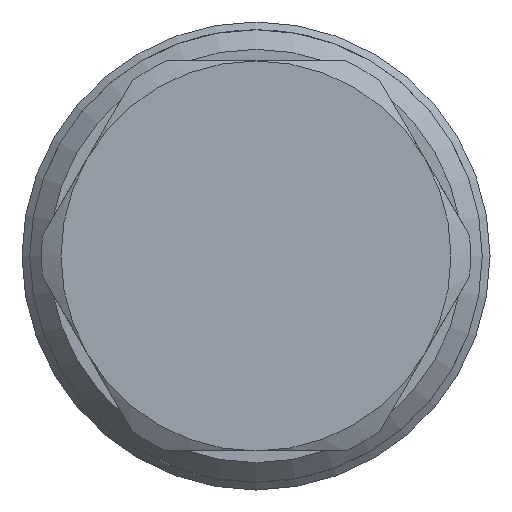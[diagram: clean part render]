
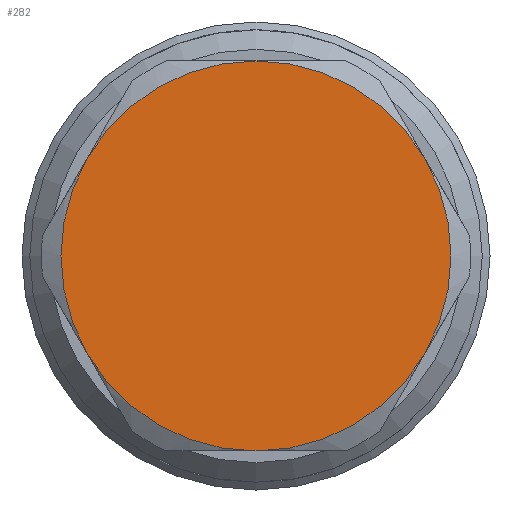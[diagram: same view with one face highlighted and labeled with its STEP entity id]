
A CAD part, left-side view. The second image highlights one B-rep face of the part: STEP entity #282.
In plain terms, the highlighted planar face has unit normal (-1, 0, 0).
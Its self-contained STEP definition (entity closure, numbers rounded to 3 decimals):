
#153=FACE_OUTER_BOUND('',#575,.T.);
#282=ADVANCED_FACE('',(#153),#367,.T.);
#367=PLANE('',#1432);
#575=EDGE_LOOP('',(#733,#734,#735,#736,#737,#738));
#733=ORIENTED_EDGE('',*,*,#1180,.T.);
#734=ORIENTED_EDGE('',*,*,#1181,.T.);
#735=ORIENTED_EDGE('',*,*,#1182,.T.);
#736=ORIENTED_EDGE('',*,*,#1183,.T.);
#737=ORIENTED_EDGE('',*,*,#1184,.T.);
#738=ORIENTED_EDGE('',*,*,#1185,.T.);
#1048=VERTEX_POINT('',#2010);
#1049=VERTEX_POINT('',#2011);
#1050=VERTEX_POINT('',#2013);
#1051=VERTEX_POINT('',#2015);
#1052=VERTEX_POINT('',#2017);
#1053=VERTEX_POINT('',#2019);
#1180=EDGE_CURVE('',#1048,#1049,#1339,.T.);
#1181=EDGE_CURVE('',#1049,#1050,#1340,.T.);
#1182=EDGE_CURVE('',#1050,#1051,#1341,.T.);
#1183=EDGE_CURVE('',#1051,#1052,#1342,.T.);
#1184=EDGE_CURVE('',#1052,#1053,#1343,.T.);
#1185=EDGE_CURVE('',#1053,#1048,#1344,.T.);
#1339=CIRCLE('',#1426,5.);
#1340=CIRCLE('',#1427,5.);
#1341=CIRCLE('',#1428,5.);
#1342=CIRCLE('',#1429,5.);
#1343=CIRCLE('',#1430,5.);
#1344=CIRCLE('',#1431,5.);
#1426=AXIS2_PLACEMENT_3D('',#2009,#1623,#1624);
#1427=AXIS2_PLACEMENT_3D('',#2012,#1625,#1626);
#1428=AXIS2_PLACEMENT_3D('',#2014,#1627,#1628);
#1429=AXIS2_PLACEMENT_3D('',#2016,#1629,#1630);
#1430=AXIS2_PLACEMENT_3D('',#2018,#1631,#1632);
#1431=AXIS2_PLACEMENT_3D('',#2020,#1633,#1634);
#1432=AXIS2_PLACEMENT_3D('',#2021,#1635,#1636);
#1623=DIRECTION('',(-1.,0.,0.));
#1624=DIRECTION('',(0.,-1.,0.));
#1625=DIRECTION('',(-1.,0.,0.));
#1626=DIRECTION('',(0.,-1.,0.));
#1627=DIRECTION('',(-1.,0.,0.));
#1628=DIRECTION('',(0.,-1.,0.));
#1629=DIRECTION('',(-1.,0.,0.));
#1630=DIRECTION('',(0.,-1.,0.));
#1631=DIRECTION('',(-1.,0.,0.));
#1632=DIRECTION('',(0.,-1.,0.));
#1633=DIRECTION('',(-1.,0.,0.));
#1634=DIRECTION('',(0.,-1.,0.));
#1635=DIRECTION('',(-1.,0.,0.));
#1636=DIRECTION('',(0.,-1.,0.));
#2009=CARTESIAN_POINT('',(-28.7,0.,0.));
#2010=CARTESIAN_POINT('',(-28.7,-4.33,2.5));
#2011=CARTESIAN_POINT('',(-28.7,0.,5.));
#2012=CARTESIAN_POINT('',(-28.7,0.,0.));
#2013=CARTESIAN_POINT('',(-28.7,4.33,2.5));
#2014=CARTESIAN_POINT('',(-28.7,0.,0.));
#2015=CARTESIAN_POINT('',(-28.7,4.33,-2.5));
#2016=CARTESIAN_POINT('',(-28.7,0.,0.));
#2017=CARTESIAN_POINT('',(-28.7,0.,-5.));
#2018=CARTESIAN_POINT('',(-28.7,0.,0.));
#2019=CARTESIAN_POINT('',(-28.7,-4.33,-2.5));
#2020=CARTESIAN_POINT('',(-28.7,0.,0.));
#2021=CARTESIAN_POINT('',(-28.7,0.,0.));
